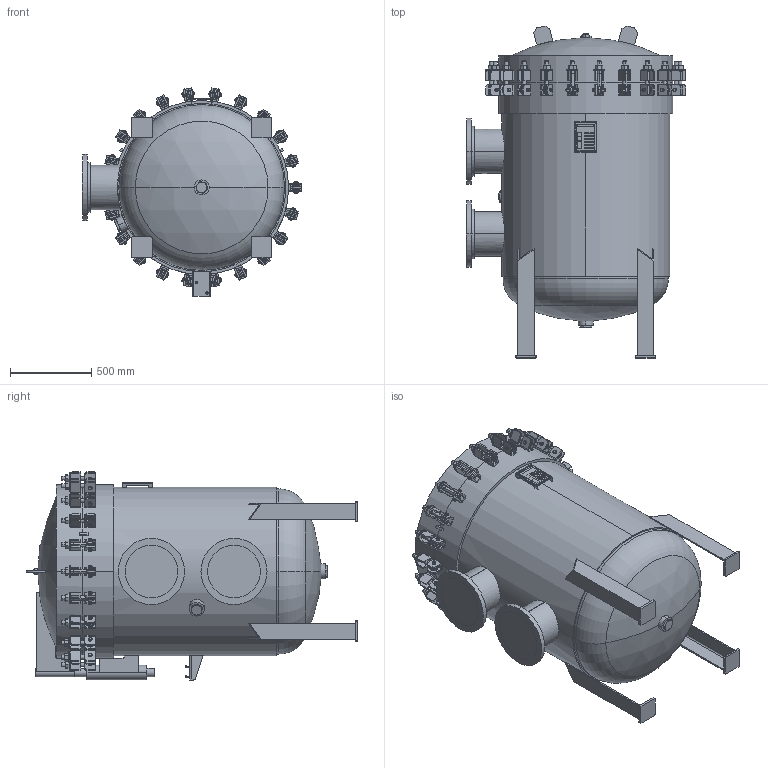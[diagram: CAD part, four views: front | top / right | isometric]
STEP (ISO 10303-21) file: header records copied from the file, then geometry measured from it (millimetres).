
FILE_DESCRIPTION (( 'STEP AP203' ), '1' );
FILE_NAME ('002004-02108.step', '2026-01-06T18:33:09', ( '' ), ( '' ), 'SwSTEP 2.0', 'SolidWorks 2023', '' );
FILE_SCHEMA (( 'CONFIG_CONTROL_DESIGN' ));
Length unit declared in the file: inch
Products named in the file (1): 002004-02108
Bounding box: 1347.79 x 2040.8 x 1279.13 mm (x, y, z)
Volume: 703123798.6 mm3; surface area: 22332555 mm2
Topology: 75 solids, 75 shells, 3617 faces, 8911 edges, 5685 vertices
Faces by surface type: plane 1503, cylinder 1402, cone 604, torus 98, sphere 8, bspline 2
Entity records: 113226 total; most frequent: CARTESIAN_POINT 25975, DIRECTION 19012, ORIENTED_EDGE 17822, EDGE_CURVE 8911, AXIS2_PLACEMENT_3D 7374, VERTEX_POINT 5685, VECTOR 4264, LINE 4264
